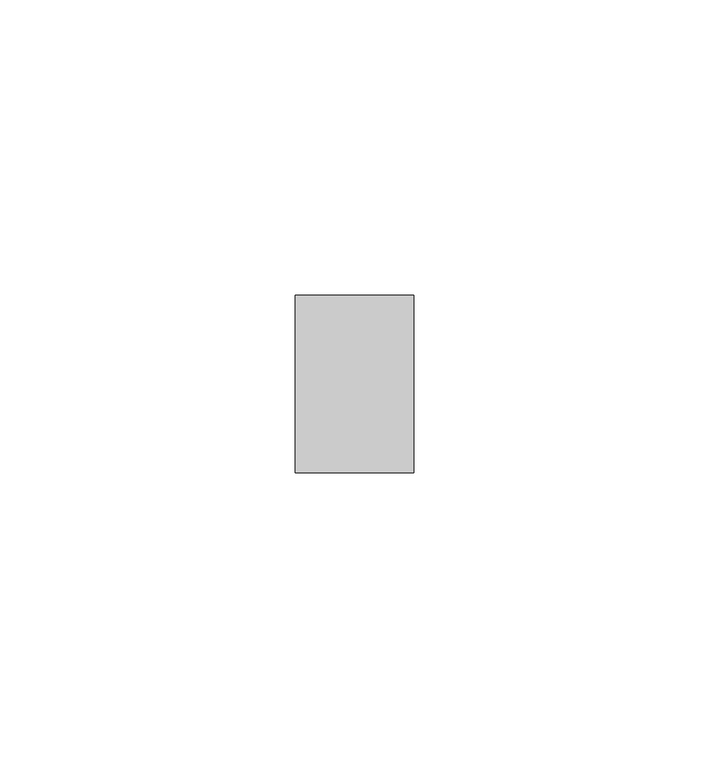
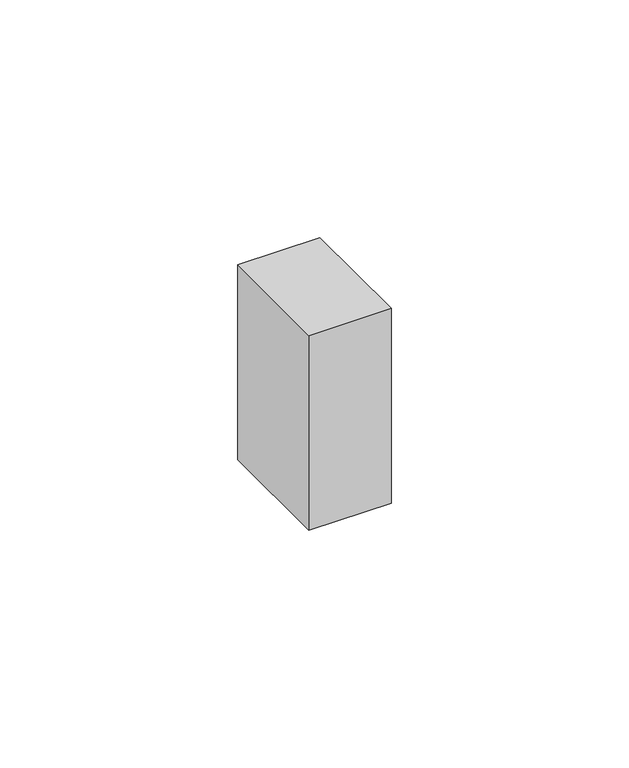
"""IFC4 building model written with IfcOpenShell, lengths in millimetres: member geometry, Прямоугольный импост : Квадрат 10 мм - Зазор между навесными плитами."""

from ifc_helpers import new_model, si_unit, frame, origin, place, context, project, spatial, polyline, outline, extrude, source, transform, mapped, element, save


def member_4cfe76b9(model_context):
    return source(origin(), model_context, "Body", "SweptSolid", [
        extrude(outline(polyline([(0.0, 15.0), (0.0, -15.0), (-20.0, -15.0), (-20.0, 15.0), (0.0, 15.0)])), frame((0.0, 0.0, -50.0), z_axis=(0.0, 0.0, 1.0), x_axis=(1.0, 0.0, 0.0)), (0.0, 0.0, 1.0), 50.0),
    ])


if __name__ == "__main__":
    model = new_model("IFC4")
    model_context = context("Model", 3, world=origin())
    ifc_project = project(units=[si_unit("LENGTHUNIT", "METRE", prefix="MILLI")], contexts=[model_context])
    site = spatial("IfcSite", under=ifc_project)
    building = spatial("IfcBuilding", under=site)
    placement = place(None, origin())
    member_shape = member_4cfe76b9(model_context)
    element("IfcMember", 1, ObjectType="Прямоугольный импост : Квадрат 10 мм - Зазор между навесными плитами", at=placement, inside=building, context=model_context, shape_type="MappedRepresentation", body=[
        mapped(member_shape, transform((0.0, 0.0, 0.0), x_axis=(1.0, 0.0, 0.0), y_axis=(0.0, 1.0, 0.0), z_axis=(0.0, 0.0, 1.0))),
    ])
    save(model, "model.ifc")
